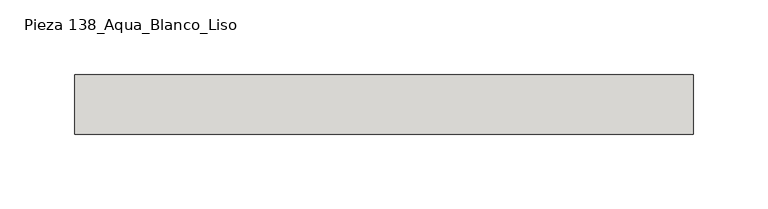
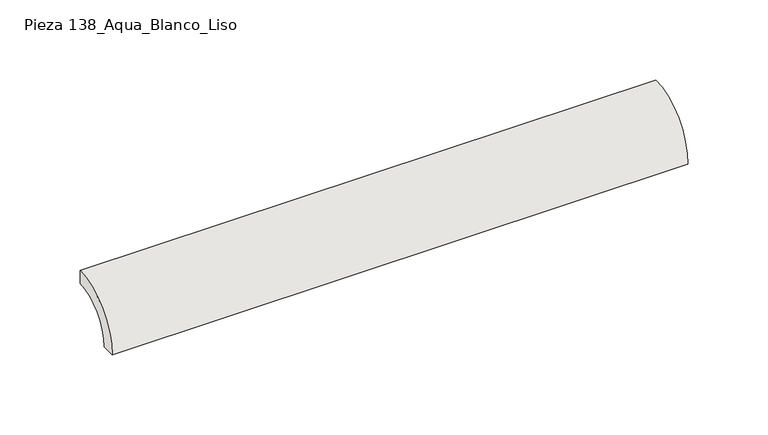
"""IFC4 building model written with IfcOpenShell, lengths in millimetres: slab geometry, ROSA GRES_138 : Pieza 138_Aqua_Blanco_Liso."""

from ifc_helpers import new_model, si_unit, point, frame, frame_2d, origin, origin_2d, place, context, project, spatial, polyline, circle_curve, trimmed, segment, composite_curve, outline, extrude, source, transform, mapped, element, save


def pieza_138_aqua_blanco_liso_e20dc912(model_context):
    return source(origin(), model_context, "Body", "SweptSolid", [
        extrude(outline(composite_curve([segment(polyline([(0.0, 40.0), (0.0, 30.0265886)]), True, "CONTINUOUS"), segment(trimmed(circle_curve(frame_2d((-0.0044453, 0.0044453)), 30.0221435), [point((0.0, 30.0265886))], [point((-30.0265886, 0.0))], True, "CARTESIAN"), True, "CONTINUOUS"), segment(polyline([(-30.0265886, 0.0), (-40.0, 0.0)]), True, "CONTINUOUS"), segment(trimmed(circle_curve(origin_2d(), 40.0), [point((-40.0, 0.0))], [point((0.0, 40.0))], False, "CARTESIAN"), True, "CONTINUOUS")], self_intersect=False)), frame((0.0, 0.0, 0.0), z_axis=(1.0, 0.0, 0.0), x_axis=(0.0, 1.0, 0.0)), (0.0, 0.0, 1.0), 415.0),
    ])


if __name__ == "__main__":
    model = new_model("IFC4")
    model_context = context("Model", 3, world=origin())
    ifc_project = project(units=[si_unit("LENGTHUNIT", "METRE", prefix="MILLI")], contexts=[model_context])
    site = spatial("IfcSite", under=ifc_project)
    building = spatial("IfcBuilding", under=site)
    placement = place(None, origin())
    pieza_138_aqua_blanco_liso_shape = pieza_138_aqua_blanco_liso_e20dc912(model_context)
    element("IfcSlab", 1, ObjectType="ROSA GRES_138 : Pieza 138_Aqua_Blanco_Liso", at=placement, inside=building, context=model_context, shape_type="MappedRepresentation", body=[
        mapped(pieza_138_aqua_blanco_liso_shape, transform((0.0, 0.0, 0.0), x_axis=(1.0, 0.0, 0.0), y_axis=(0.0, 1.0, 0.0), z_axis=(0.0, 0.0, 1.0))),
    ])
    save(model, "model.ifc")
